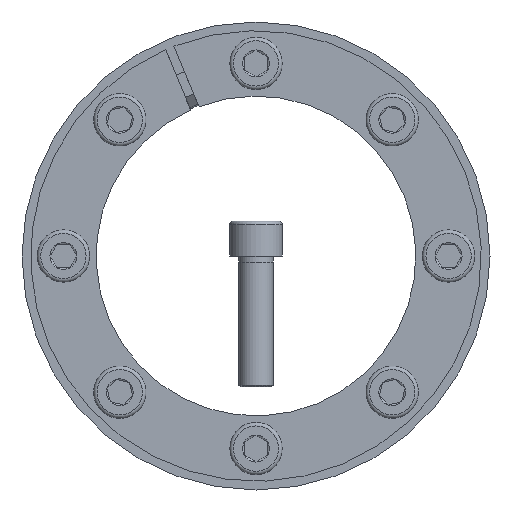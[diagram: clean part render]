
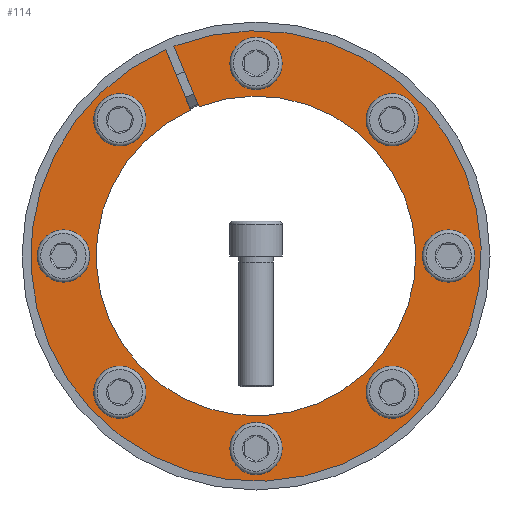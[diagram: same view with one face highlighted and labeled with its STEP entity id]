
A CAD part, front view. The second image highlights one B-rep face of the part: STEP entity #114.
In plain terms, the highlighted planar face has unit normal (0, -1, 0).
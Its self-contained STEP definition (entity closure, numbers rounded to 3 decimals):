
#114 = ADVANCED_FACE( '', ( #251, #252, #253, #254, #255, #256, #257, #258, #259 ), #260, .T. );
#251 = FACE_BOUND( '', #447, .T. );
#252 = FACE_BOUND( '', #448, .T. );
#253 = FACE_BOUND( '', #449, .T. );
#254 = FACE_BOUND( '', #450, .T. );
#255 = FACE_BOUND( '', #451, .T. );
#256 = FACE_BOUND( '', #452, .T. );
#257 = FACE_BOUND( '', #453, .T. );
#258 = FACE_BOUND( '', #454, .T. );
#259 = FACE_OUTER_BOUND( '', #455, .T. );
#260 = PLANE( '', #456 );
#447 = EDGE_LOOP( '', ( #728 ) );
#448 = EDGE_LOOP( '', ( #729 ) );
#449 = EDGE_LOOP( '', ( #730 ) );
#450 = EDGE_LOOP( '', ( #731 ) );
#451 = EDGE_LOOP( '', ( #732 ) );
#452 = EDGE_LOOP( '', ( #733 ) );
#453 = EDGE_LOOP( '', ( #734 ) );
#454 = EDGE_LOOP( '', ( #735 ) );
#455 = EDGE_LOOP( '', ( #736, #737, #738, #739 ) );
#456 = AXIS2_PLACEMENT_3D( '', #740, #741, #742 );
#728 = ORIENTED_EDGE( '', *, *, #1099, .T. );
#729 = ORIENTED_EDGE( '', *, *, #1063, .T. );
#730 = ORIENTED_EDGE( '', *, *, #1100, .T. );
#731 = ORIENTED_EDGE( '', *, *, #1101, .T. );
#732 = ORIENTED_EDGE( '', *, *, #1102, .T. );
#733 = ORIENTED_EDGE( '', *, *, #1103, .T. );
#734 = ORIENTED_EDGE( '', *, *, #1104, .T. );
#735 = ORIENTED_EDGE( '', *, *, #1084, .T. );
#736 = ORIENTED_EDGE( '', *, *, #1105, .T. );
#737 = ORIENTED_EDGE( '', *, *, #1050, .F. );
#738 = ORIENTED_EDGE( '', *, *, #1072, .F. );
#739 = ORIENTED_EDGE( '', *, *, #1106, .T. );
#740 = CARTESIAN_POINT( '', ( 0., 0., 77.5 ) );
#741 = DIRECTION( '', ( 0., -1., 0. ) );
#742 = DIRECTION( '', ( 0., 0., -1. ) );
#1050 = EDGE_CURVE( '', #1268, #1270, #1271, .T. );
#1063 = EDGE_CURVE( '', #1292, #1292, #1293, .T. );
#1072 = EDGE_CURVE( '', #1305, #1268, #1306, .T. );
#1084 = EDGE_CURVE( '', #1324, #1324, #1325, .T. );
#1099 = EDGE_CURVE( '', #1349, #1349, #1350, .T. );
#1100 = EDGE_CURVE( '', #1351, #1351, #1352, .T. );
#1101 = EDGE_CURVE( '', #1353, #1353, #1354, .T. );
#1102 = EDGE_CURVE( '', #1355, #1355, #1356, .T. );
#1103 = EDGE_CURVE( '', #1357, #1357, #1358, .T. );
#1104 = EDGE_CURVE( '', #1359, #1359, #1360, .T. );
#1105 = EDGE_CURVE( '', #1361, #1270, #1362, .T. );
#1106 = EDGE_CURVE( '', #1305, #1361, #1363, .T. );
#1268 = VERTEX_POINT( '', #1645 );
#1270 = VERTEX_POINT( '', #1648 );
#1271 = LINE( '', #1649, #1650 );
#1292 = VERTEX_POINT( '', #1680 );
#1293 = CIRCLE( '', #1681, 6. );
#1305 = VERTEX_POINT( '', #1693 );
#1306 = CIRCLE( '', #1694, 55. );
#1324 = VERTEX_POINT( '', #1717 );
#1325 = CIRCLE( '', #1718, 6. );
#1349 = VERTEX_POINT( '', #1742 );
#1350 = CIRCLE( '', #1743, 6. );
#1351 = VERTEX_POINT( '', #1744 );
#1352 = CIRCLE( '', #1745, 6. );
#1353 = VERTEX_POINT( '', #1746 );
#1354 = CIRCLE( '', #1747, 6. );
#1355 = VERTEX_POINT( '', #1748 );
#1356 = CIRCLE( '', #1749, 6. );
#1357 = VERTEX_POINT( '', #1750 );
#1358 = CIRCLE( '', #1751, 6. );
#1359 = VERTEX_POINT( '', #1752 );
#1360 = CIRCLE( '', #1753, 6. );
#1361 = VERTEX_POINT( '', #1754 );
#1362 = CIRCLE( '', #1755, 77.5 );
#1363 = LINE( '', #1756, #1757 );
#1645 = CARTESIAN_POINT( '', ( -19.607, 0., 51.386 ) );
#1648 = CARTESIAN_POINT( '', ( -28.22, 0., 72.18 ) );
#1649 = CARTESIAN_POINT( '', ( 1.432, 0., 0.593 ) );
#1650 = VECTOR( '', #1909, 1000. );
#1680 = CARTESIAN_POINT( '', ( -51.088, 0., -42.603 ) );
#1681 = AXIS2_PLACEMENT_3D( '', #1922, #1923, #1924 );
#1693 = CARTESIAN_POINT( '', ( -22.471, 0., 50.2 ) );
#1694 = AXIS2_PLACEMENT_3D( '', #1940, #1941, #1942 );
#1717 = CARTESIAN_POINT( '', ( -66.25, 0., 6. ) );
#1718 = AXIS2_PLACEMENT_3D( '', #1957, #1958, #1959 );
#1742 = CARTESIAN_POINT( '', ( -42.603, 0., 51.088 ) );
#1743 = AXIS2_PLACEMENT_3D( '', #1987, #1988, #1989 );
#1744 = CARTESIAN_POINT( '', ( 42.603, 0., -51.088 ) );
#1745 = AXIS2_PLACEMENT_3D( '', #1990, #1991, #1992 );
#1746 = CARTESIAN_POINT( '', ( 51.088, 0., 42.603 ) );
#1747 = AXIS2_PLACEMENT_3D( '', #1993, #1994, #1995 );
#1748 = CARTESIAN_POINT( '', ( 6., 0., 66.25 ) );
#1749 = AXIS2_PLACEMENT_3D( '', #1996, #1997, #1998 );
#1750 = CARTESIAN_POINT( '', ( 66.25, 0., -6. ) );
#1751 = AXIS2_PLACEMENT_3D( '', #1999, #2000, #2001 );
#1752 = CARTESIAN_POINT( '', ( -6., 0., -66.25 ) );
#1753 = AXIS2_PLACEMENT_3D( '', #2002, #2003, #2004 );
#1754 = CARTESIAN_POINT( '', ( -31.084, 0., 70.993 ) );
#1755 = AXIS2_PLACEMENT_3D( '', #2005, #2006, #2007 );
#1756 = CARTESIAN_POINT( '', ( -1.432, 0., -0.593 ) );
#1757 = VECTOR( '', #2008, 1000. );
#1909 = DIRECTION( '', ( -0.383, 0., 0.924 ) );
#1922 = CARTESIAN_POINT( '', ( -46.846, 0., -46.846 ) );
#1923 = DIRECTION( '', ( 0., 1., 0. ) );
#1924 = DIRECTION( '', ( -0.707, 0., 0.707 ) );
#1940 = CARTESIAN_POINT( '', ( 0., 0., 0. ) );
#1941 = DIRECTION( '', ( 0., -1., 0. ) );
#1942 = DIRECTION( '', ( 0., 0., -1. ) );
#1957 = CARTESIAN_POINT( '', ( -66.25, 0., 0. ) );
#1958 = DIRECTION( '', ( 0., 1., 0. ) );
#1959 = DIRECTION( '', ( 0., 0., 1. ) );
#1987 = CARTESIAN_POINT( '', ( -46.846, 0., 46.846 ) );
#1988 = DIRECTION( '', ( 0., 1., 0. ) );
#1989 = DIRECTION( '', ( 0.707, 0., 0.707 ) );
#1990 = CARTESIAN_POINT( '', ( 46.846, 0., -46.846 ) );
#1991 = DIRECTION( '', ( 0., 1., 0. ) );
#1992 = DIRECTION( '', ( -0.707, 0., -0.707 ) );
#1993 = CARTESIAN_POINT( '', ( 46.846, 0., 46.846 ) );
#1994 = DIRECTION( '', ( 0., 1., 0. ) );
#1995 = DIRECTION( '', ( 0.707, 0., -0.707 ) );
#1996 = CARTESIAN_POINT( '', ( 0., 0., 66.25 ) );
#1997 = DIRECTION( '', ( 0., 1., 0. ) );
#1998 = DIRECTION( '', ( 1., 0., 0. ) );
#1999 = CARTESIAN_POINT( '', ( 66.25, 0., 0. ) );
#2000 = DIRECTION( '', ( 0., 1., 0. ) );
#2001 = DIRECTION( '', ( 0., 0., -1. ) );
#2002 = CARTESIAN_POINT( '', ( 0., 0., -66.25 ) );
#2003 = DIRECTION( '', ( 0., 1., 0. ) );
#2004 = DIRECTION( '', ( -1., 0., 0. ) );
#2005 = CARTESIAN_POINT( '', ( 0., 0., 0. ) );
#2006 = DIRECTION( '', ( 0., -1., 0. ) );
#2007 = DIRECTION( '', ( 0., 0., -1. ) );
#2008 = DIRECTION( '', ( -0.383, 0., 0.924 ) );
